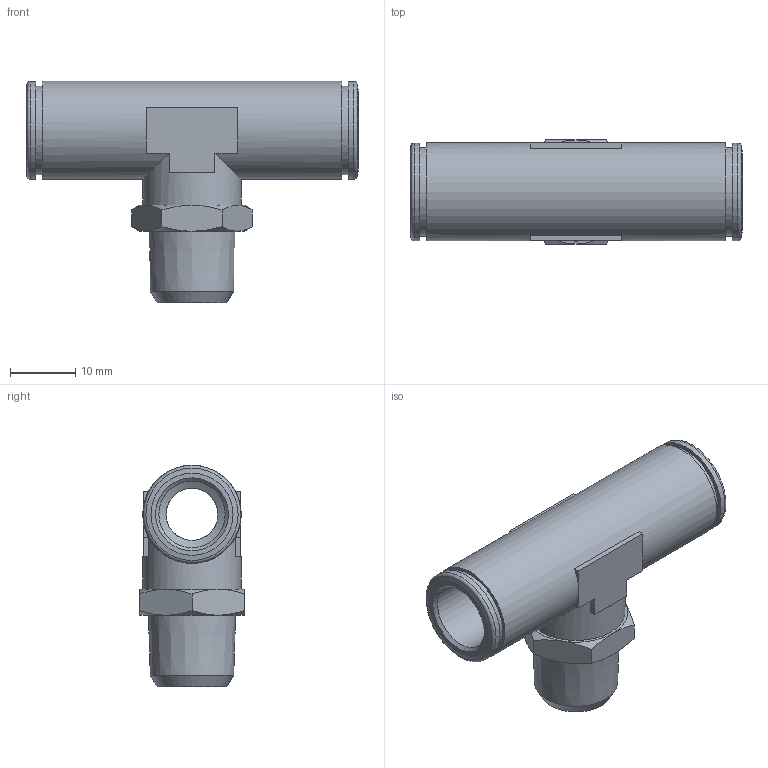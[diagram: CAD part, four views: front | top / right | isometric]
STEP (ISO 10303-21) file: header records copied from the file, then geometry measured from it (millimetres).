
FILE_DESCRIPTION(/* description */ (''),/* implementation_level */ '2;1');
FILE_NAME(/* name */ '202058-ES-I1-N2_STX020K_10_R14_06.07.16',/* time_stamp */ '2016-07-06T08:29:41+02:00',/* author */ (''),/* organization */ (''),/* preprocessor_version */ 'ST-DEVELOPER v16.5',/* originating_system */ 'HiCAD 2016 2101.0 Build 254',/* authorisation */ '');
FILE_SCHEMA (('AUTOMOTIVE_DESIGN { 1 0 10303 214 1 1 1 1 }'));
Length unit declared in the file: millimetre
Products named in the file (5): Root; 214636-1; R202008-ES-N; DR10-N
Assembly tree (4 placements, depth 2):
  Root
    214636-1
    R202008-ES-N
    DR10-N
    DR10-N
Bounding box: 51 x 16 x 34.05 mm (x, y, z)
Volume: 6656.5 mm3; surface area: 7884.6 mm2
Topology: 4 solids, 4 shells, 116 faces, 256 edges, 156 vertices
Faces by surface type: plane 54, cone 36, cylinder 24, torus 2
Full cylindrical faces by diameter (mm): 8 x2, 10.2 x4, 12.2 x2, 12.3 x2, 13 x2, 13.5 x2, 13.6 x2, 13.7 x2, 15 x2, 15.1 x2
Entity records: 5999 total; most frequent: CARTESIAN_POINT 1586, DIRECTION 554, PRESENTATION_STYLE_ASSIGNMENT 394, COLOUR_RGB 391, DRAUGHTING_PRE_DEFINED_CURVE_FONT 390, CURVE_STYLE 390, OVER_RIDING_STYLED_ITEM 390, ORIENTED_EDGE 390
